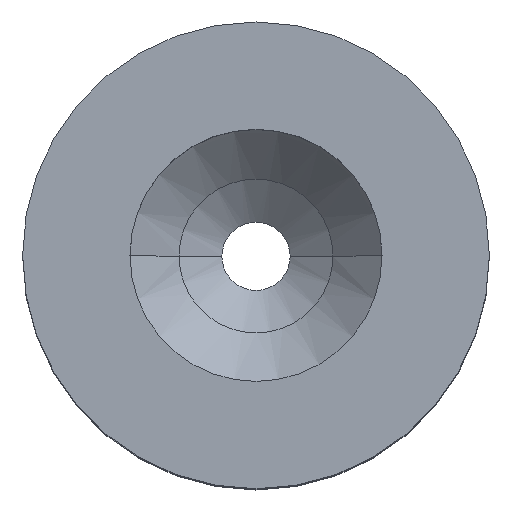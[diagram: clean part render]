
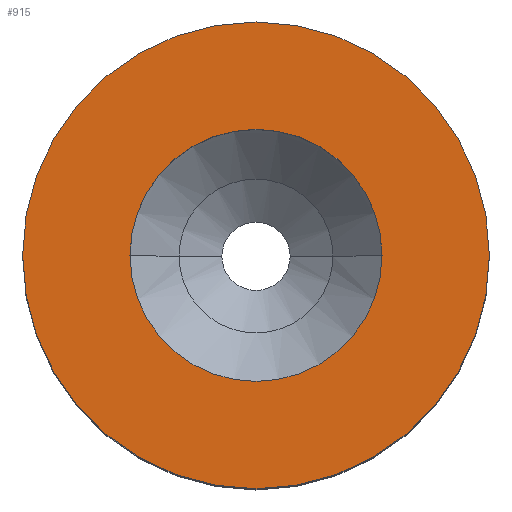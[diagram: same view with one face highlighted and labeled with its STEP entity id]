
A CAD part, top view. The second image highlights one B-rep face of the part: STEP entity #915.
In plain terms, the highlighted planar face has unit normal (0, 0, 1).
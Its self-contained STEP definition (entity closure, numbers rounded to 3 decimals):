
#97 = CARTESIAN_POINT ( 'NONE',  ( -5., 0., 0. ) ) ;
#100 = AXIS2_PLACEMENT_3D ( 'NONE', #597, #594, #575 ) ;
#196 = VERTEX_POINT ( 'NONE', #555 ) ;
#207 = VERTEX_POINT ( 'NONE', #684 ) ;
#229 = CIRCLE ( 'NONE', #100, 5. ) ;
#237 = DIRECTION ( 'NONE',  ( 0., 0., -1. ) ) ;
#268 = EDGE_LOOP ( 'NONE', ( #517, #604 ) ) ;
#310 = CARTESIAN_POINT ( 'NONE',  ( 0., 0., 0. ) ) ;
#332 = CIRCLE ( 'NONE', #676, 2.7 ) ;
#347 = EDGE_CURVE ( 'NONE', #207, #196, #681, .T. ) ;
#377 = DIRECTION ( 'NONE',  ( -1., 0., 0. ) ) ;
#379 = CARTESIAN_POINT ( 'NONE',  ( 5., 0., 0. ) ) ;
#380 = FACE_OUTER_BOUND ( 'NONE', #882, .T. ) ;
#399 = VERTEX_POINT ( 'NONE', #379 ) ;
#414 = ORIENTED_EDGE ( 'NONE', *, *, #682, .T. ) ;
#429 = CARTESIAN_POINT ( 'NONE',  ( 0., 0., 0. ) ) ;
#444 = EDGE_CURVE ( 'NONE', #399, #643, #229, .T. ) ;
#499 = PLANE ( 'NONE',  #532 ) ;
#507 = DIRECTION ( 'NONE',  ( 1., 0., 0. ) ) ;
#514 = DIRECTION ( 'NONE',  ( 0., 0., 1. ) ) ;
#517 = ORIENTED_EDGE ( 'NONE', *, *, #956, .F. ) ;
#532 = AXIS2_PLACEMENT_3D ( 'NONE', #310, #237, #377 ) ;
#555 = CARTESIAN_POINT ( 'NONE',  ( 2.7, 0., 0. ) ) ;
#563 = DIRECTION ( 'NONE',  ( 1., 0., 0. ) ) ;
#575 = DIRECTION ( 'NONE',  ( 1., 0., 0. ) ) ;
#582 = CARTESIAN_POINT ( 'NONE',  ( 0., 0., 0. ) ) ;
#592 = AXIS2_PLACEMENT_3D ( 'NONE', #861, #698, #626 ) ;
#594 = DIRECTION ( 'NONE',  ( 0., 0., 1. ) ) ;
#597 = CARTESIAN_POINT ( 'NONE',  ( 0., 0., 0. ) ) ;
#604 = ORIENTED_EDGE ( 'NONE', *, *, #347, .F. ) ;
#626 = DIRECTION ( 'NONE',  ( 1., 0., 0. ) ) ;
#643 = VERTEX_POINT ( 'NONE', #97 ) ;
#653 = AXIS2_PLACEMENT_3D ( 'NONE', #582, #959, #563 ) ;
#676 = AXIS2_PLACEMENT_3D ( 'NONE', #429, #514, #507 ) ;
#681 = CIRCLE ( 'NONE', #653, 2.7 ) ;
#682 = EDGE_CURVE ( 'NONE', #643, #399, #754, .T. ) ;
#684 = CARTESIAN_POINT ( 'NONE',  ( -2.7, 0., 0. ) ) ;
#698 = DIRECTION ( 'NONE',  ( 0., 0., 1. ) ) ;
#754 = CIRCLE ( 'NONE', #592, 5. ) ;
#861 = CARTESIAN_POINT ( 'NONE',  ( 0., 0., 0. ) ) ;
#875 = ORIENTED_EDGE ( 'NONE', *, *, #444, .T. ) ;
#882 = EDGE_LOOP ( 'NONE', ( #875, #414 ) ) ;
#915 = ADVANCED_FACE ( 'NONE', ( #928, #380 ), #499, .F. ) ;
#928 = FACE_BOUND ( 'NONE', #268, .T. ) ;
#956 = EDGE_CURVE ( 'NONE', #196, #207, #332, .T. ) ;
#959 = DIRECTION ( 'NONE',  ( 0., 0., 1. ) ) ;
